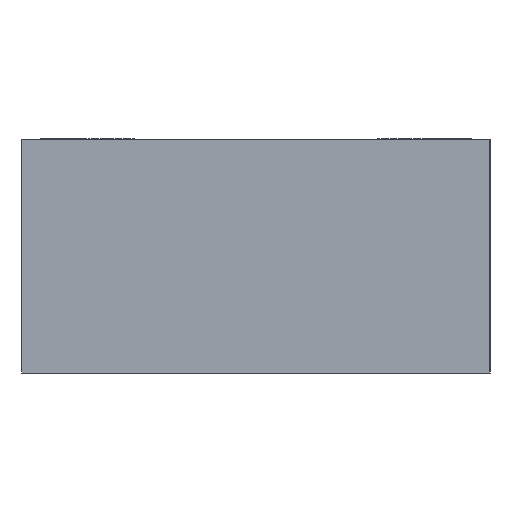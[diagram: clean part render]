
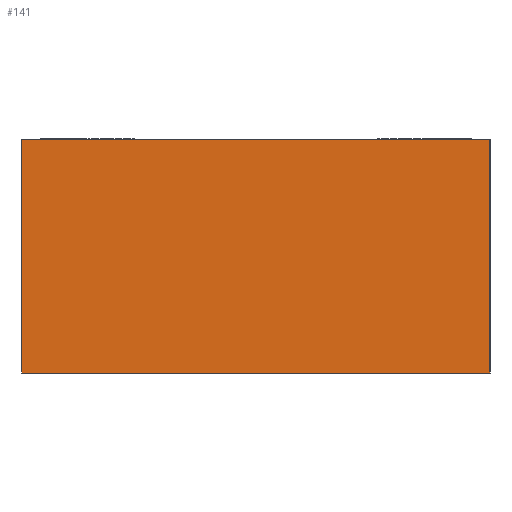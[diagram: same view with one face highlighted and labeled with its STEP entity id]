
A CAD part, left-side view. The second image highlights one B-rep face of the part: STEP entity #141.
In plain terms, the highlighted planar face has unit normal (-1, 0, 0).
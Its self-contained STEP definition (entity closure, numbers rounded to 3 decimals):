
#11 = ORIENTED_EDGE ( 'NONE', *, *, #282, .T. ) ;
#17 = LINE ( 'NONE', #131, #298 ) ;
#24 = DIRECTION ( 'NONE',  ( 0., 0., -1. ) ) ;
#34 = EDGE_CURVE ( 'NONE', #265, #227, #358, .T. ) ;
#46 = DIRECTION ( 'NONE',  ( 1., 0., 0. ) ) ;
#62 = ORIENTED_EDGE ( 'NONE', *, *, #128, .F. ) ;
#81 = CARTESIAN_POINT ( 'NONE',  ( -262., -24., -12. ) ) ;
#103 = CARTESIAN_POINT ( 'NONE',  ( -262., -24., 12. ) ) ;
#115 = DIRECTION ( 'NONE',  ( 0., -1., 0. ) ) ;
#119 = VECTOR ( 'NONE', #115, 1000. ) ;
#123 = ORIENTED_EDGE ( 'NONE', *, *, #34, .T. ) ;
#128 = EDGE_CURVE ( 'NONE', #153, #227, #17, .T. ) ;
#131 = CARTESIAN_POINT ( 'NONE',  ( -262., -24., 12. ) ) ;
#137 = CARTESIAN_POINT ( 'NONE',  ( -262., 24., 12. ) ) ;
#141 = ADVANCED_FACE ( 'NONE', ( #328 ), #330, .F. ) ;
#144 = EDGE_LOOP ( 'NONE', ( #123, #62, #167, #11 ) ) ;
#153 = VERTEX_POINT ( 'NONE', #332 ) ;
#167 = ORIENTED_EDGE ( 'NONE', *, *, #349, .F. ) ;
#171 = CARTESIAN_POINT ( 'NONE',  ( -262., 24., -12. ) ) ;
#190 = DIRECTION ( 'NONE',  ( 0., -1., 0. ) ) ;
#195 = VECTOR ( 'NONE', #190, 1000. ) ;
#227 = VERTEX_POINT ( 'NONE', #371 ) ;
#248 = DIRECTION ( 'NONE',  ( 0., 0., -1. ) ) ;
#265 = VERTEX_POINT ( 'NONE', #171 ) ;
#276 = DIRECTION ( 'NONE',  ( 0., 0., -1. ) ) ;
#282 = EDGE_CURVE ( 'NONE', #289, #265, #334, .T. ) ;
#289 = VERTEX_POINT ( 'NONE', #137 ) ;
#291 = AXIS2_PLACEMENT_3D ( 'NONE', #103, #46, #276 ) ;
#298 = VECTOR ( 'NONE', #248, 1000. ) ;
#307 = LINE ( 'NONE', #309, #119 ) ;
#309 = CARTESIAN_POINT ( 'NONE',  ( -262., -24., 12. ) ) ;
#313 = CARTESIAN_POINT ( 'NONE',  ( -262., 24., 12. ) ) ;
#315 = VECTOR ( 'NONE', #24, 1000. ) ;
#328 = FACE_OUTER_BOUND ( 'NONE', #144, .T. ) ;
#330 = PLANE ( 'NONE',  #291 ) ;
#332 = CARTESIAN_POINT ( 'NONE',  ( -262., -24., 12. ) ) ;
#334 = LINE ( 'NONE', #313, #315 ) ;
#349 = EDGE_CURVE ( 'NONE', #289, #153, #307, .T. ) ;
#358 = LINE ( 'NONE', #81, #195 ) ;
#371 = CARTESIAN_POINT ( 'NONE',  ( -262., -24., -12. ) ) ;
